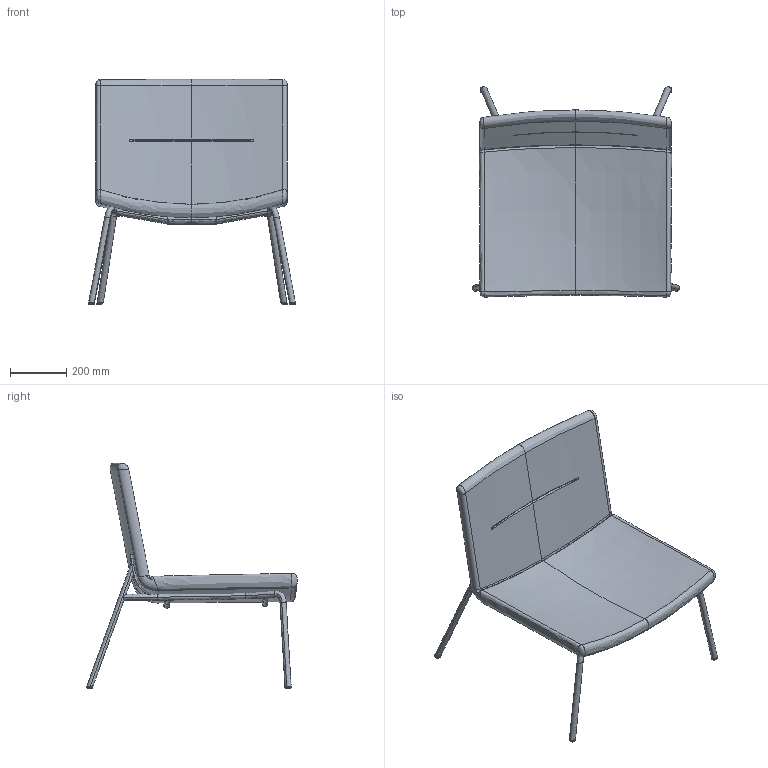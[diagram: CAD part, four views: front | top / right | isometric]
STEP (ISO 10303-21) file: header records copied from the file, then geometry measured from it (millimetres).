
FILE_DESCRIPTION(/* description */ (''),/* implementation_level */ '2;1');
FILE_NAME(/* name */ 'OSLO_L~1',/* time_stamp */ '2020-01-31T17:20:08+01:00',/* author */ (''),/* organization */ (''),/* preprocessor_version */ 'ST-DEVELOPER v16.5',/* originating_system */ '',/* authorisation */ '');
FILE_SCHEMA (('AUTOMOTIVE_DESIGN'));
Length unit declared in the file: millimetre
Products named in the file (1): Document
Bounding box: 732.97 x 746.09 x 799.23 mm (x, y, z)
Surface area: 1751091.5 mm2
Topology: 8 solids, 18 shells, 214 faces, 540 edges, 323 vertices
Faces by surface type: bspline 208, plane 6
Entity records: 17197 total; most frequent: CARTESIAN_POINT 14212, ORIENTED_EDGE 958, EDGE_CURVE 498, VERTEX_POINT 309, EDGE_LOOP 232, ADVANCED_FACE 214, FACE_OUTER_BOUND 214, B_SPLINE_CURVE_WITH_KNOTS 210
